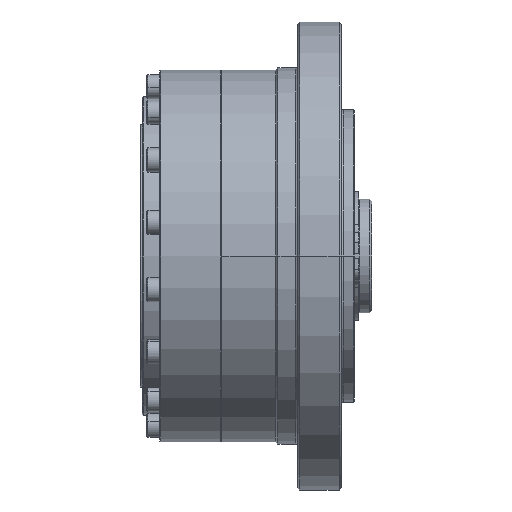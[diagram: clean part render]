
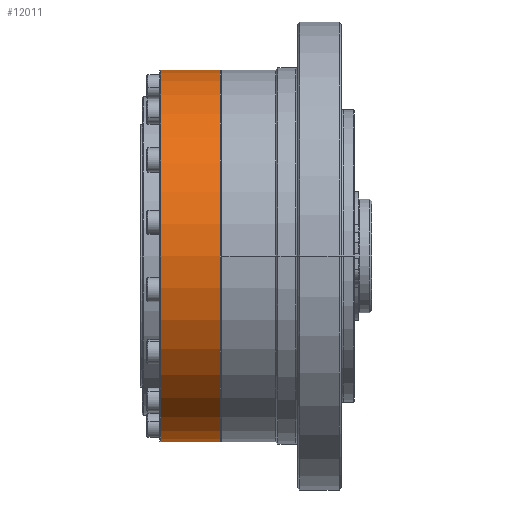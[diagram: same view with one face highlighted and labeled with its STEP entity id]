
A CAD part, front view. The second image highlights one B-rep face of the part: STEP entity #12011.
In plain terms, the highlighted cylindrical face has radius 42.5 mm (diameter 85 mm), a partial arc.
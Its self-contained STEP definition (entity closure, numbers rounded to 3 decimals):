
#610 = CARTESIAN_POINT ( 'NONE',  ( -15.662, 1.15, 149.5 ) ) ;
#793 = CARTESIAN_POINT ( 'NONE',  ( -15.462, 1.15, 64.5 ) ) ;
#822 = VERTEX_POINT ( 'NONE', #15175 ) ;
#841 = DIRECTION ( 'NONE',  ( 0., 0., 1. ) ) ;
#1645 = AXIS2_PLACEMENT_3D ( 'NONE', #5994, #8671, #841 ) ;
#2931 = ORIENTED_EDGE ( 'NONE', *, *, #13033, .T. ) ;
#3157 = EDGE_CURVE ( 'NONE', #7538, #822, #6372, .T. ) ;
#3766 = CIRCLE ( 'NONE', #15303, 42.5 ) ;
#4608 = CARTESIAN_POINT ( 'NONE',  ( -15.662, 1.15, 107. ) ) ;
#4742 = DIRECTION ( 'NONE',  ( 1., 0., 0. ) ) ;
#4890 = CARTESIAN_POINT ( 'NONE',  ( -15.662, 1.15, 64.5 ) ) ;
#5868 = VERTEX_POINT ( 'NONE', #14353 ) ;
#5922 = DIRECTION ( 'NONE',  ( 0., 0., -1. ) ) ;
#5957 = VECTOR ( 'NONE', #10172, 1000. ) ;
#5994 = CARTESIAN_POINT ( 'NONE',  ( -15.462, 1.15, 107. ) ) ;
#6022 = FACE_OUTER_BOUND ( 'NONE', #14744, .T. ) ;
#6372 = LINE ( 'NONE', #9258, #5957 ) ;
#7538 = VERTEX_POINT ( 'NONE', #610 ) ;
#8671 = DIRECTION ( 'NONE',  ( -1., 0., 0. ) ) ;
#8936 = LINE ( 'NONE', #793, #16285 ) ;
#9090 = CIRCLE ( 'NONE', #14867, 42.5 ) ;
#9122 = CYLINDRICAL_SURFACE ( 'NONE', #1645, 42.5 ) ;
#9258 = CARTESIAN_POINT ( 'NONE',  ( -15.462, 1.15, 149.5 ) ) ;
#9876 = DIRECTION ( 'NONE',  ( -1., 0., 0. ) ) ;
#10172 = DIRECTION ( 'NONE',  ( -1., 0., 0. ) ) ;
#11082 = ORIENTED_EDGE ( 'NONE', *, *, #3157, .T. ) ;
#12011 = ADVANCED_FACE ( 'NONE', ( #6022 ), #9122, .T. ) ;
#12315 = ORIENTED_EDGE ( 'NONE', *, *, #12496, .T. ) ;
#12496 = EDGE_CURVE ( 'NONE', #822, #5868, #3766, .T. ) ;
#12574 = CARTESIAN_POINT ( 'NONE',  ( -29.262, 1.15, 107. ) ) ;
#13033 = EDGE_CURVE ( 'NONE', #14690, #7538, #9090, .T. ) ;
#13738 = DIRECTION ( 'NONE',  ( -1., 0., 0. ) ) ;
#13878 = DIRECTION ( 'NONE',  ( 0., 0., 1. ) ) ;
#14160 = ORIENTED_EDGE ( 'NONE', *, *, #16621, .F. ) ;
#14353 = CARTESIAN_POINT ( 'NONE',  ( -29.262, 1.15, 64.5 ) ) ;
#14690 = VERTEX_POINT ( 'NONE', #4890 ) ;
#14744 = EDGE_LOOP ( 'NONE', ( #14160, #2931, #11082, #12315 ) ) ;
#14867 = AXIS2_PLACEMENT_3D ( 'NONE', #4608, #13738, #5922 ) ;
#15175 = CARTESIAN_POINT ( 'NONE',  ( -29.262, 1.15, 149.5 ) ) ;
#15303 = AXIS2_PLACEMENT_3D ( 'NONE', #12574, #4742, #13878 ) ;
#16285 = VECTOR ( 'NONE', #9876, 1000. ) ;
#16621 = EDGE_CURVE ( 'NONE', #14690, #5868, #8936, .T. ) ;
